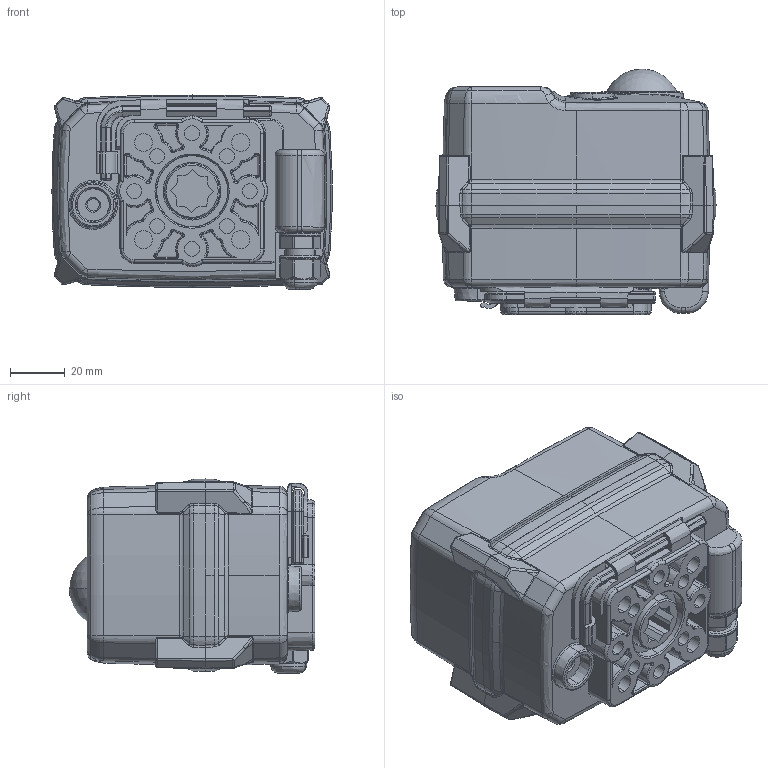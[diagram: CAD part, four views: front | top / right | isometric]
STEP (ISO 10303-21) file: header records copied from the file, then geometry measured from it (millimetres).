
FILE_DESCRIPTION (( 'STEP AP203' ), '1' );
FILE_NAME ('02N俋倛芞-20170603.STEP', '2018-01-19T01:00:39', ( '' ), ( '' ), 'SwSTEP 2.0', 'SolidWorks 2015', '' );
FILE_SCHEMA (( 'CONFIG_CONTROL_DESIGN' ));
Length unit declared in the file: inch
Products named in the file (15): 售忒殤-2-14; 囀硌尨齪2; 輛盄坶譫; 囀硌尨齪1; 02高上盖无窗（带出模角度）; 02N俋倛芞-20170603; 噩え俋褲; 噩え俋褲囀傍; 忒雄粣蚐猾; 手动轴垫圈; 怀堤粣 ㄗ囀匐源ㄘ; 下盖（带出模角度）2014-2-24; 忒雄粣; 忒雄售忒; 忒雄粣粣紫
Assembly tree (14 placements, depth 2):
  02N俋倛芞-20170603
    怀堤粣 ㄗ囀匐源ㄘ
    忒雄粣
    忒雄粣粣紫
    囀硌尨齪2
    囀硌尨齪1
    噩え俋褲
    噩え俋褲囀傍
    忒雄粣蚐猾
    手动轴垫圈
    下盖（带出模角度）2014-2-24
    忒雄售忒
    售忒殤-2-14
    輛盄坶譫
    02高上盖无窗（带出模角度）
Bounding box: 101.88 x 89.32 x 70.57 mm (x, y, z)
Volume: 132359.1 mm3; surface area: 95478.2 mm2
Topology: 14 solids, 14 shells, 2009 faces, 5088 edges, 3150 vertices
Faces by surface type: bspline 573, plane 524, cylinder 494, cone 296, torus 92, sphere 30
Entity records: 83417 total; most frequent: CARTESIAN_POINT 37056, ORIENTED_EDGE 10094, DIRECTION 8602, EDGE_CURVE 5047, AXIS2_PLACEMENT_3D 3443, VERTEX_POINT 3146, EDGE_LOOP 2131, ADVANCED_FACE 2009
